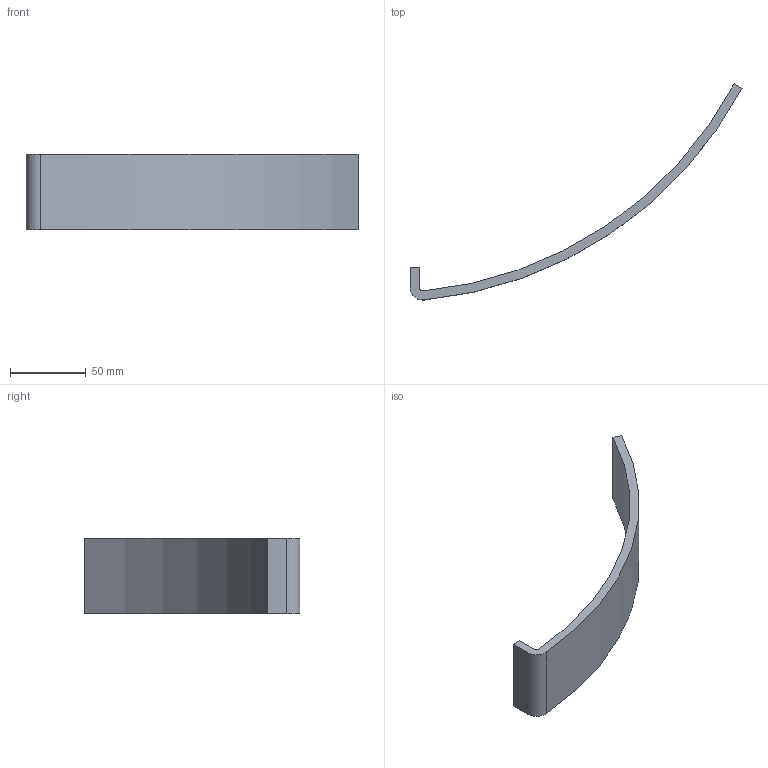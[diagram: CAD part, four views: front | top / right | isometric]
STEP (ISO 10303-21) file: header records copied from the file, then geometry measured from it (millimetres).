
FILE_DESCRIPTION (( 'STEP AP214' ), '1' );
FILE_NAME ('YYDK-500-0010 油管保护罩1（500T）-3.step', '2024-11-20T05:46:50', ( '' ), ( '' ), 'SwSTEP 2.0', 'SolidWorks 2020', '' );
FILE_SCHEMA (( 'AUTOMOTIVE_DESIGN' ));
Length unit declared in the file: millimetre
Products named in the file (1): YYDK-500-0010 油管保护罩1（500T）-3
Bounding box: 219.83 x 142.98 x 50 mm (x, y, z)
Volume: 84793.5 mm3; surface area: 32287.1 mm2
Topology: 1 solids, 1 shells, 10 faces, 24 edges, 16 vertices
Faces by surface type: plane 6, cylinder 4
Entity records: 330 total; most frequent: DIRECTION 54, CARTESIAN_POINT 51, ORIENTED_EDGE 48, EDGE_CURVE 24, AXIS2_PLACEMENT_3D 19, LINE 16, VERTEX_POINT 16, VECTOR 16
